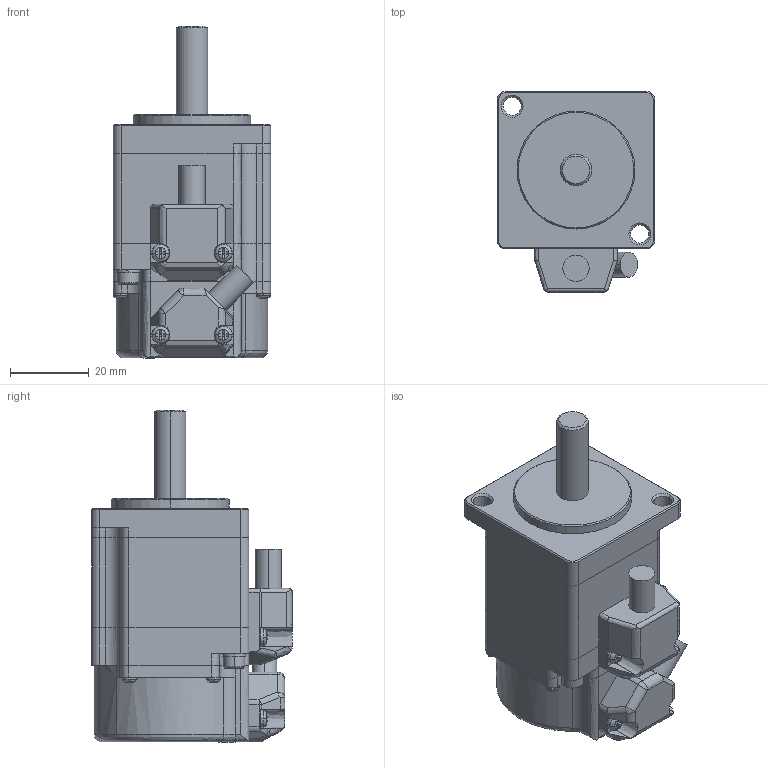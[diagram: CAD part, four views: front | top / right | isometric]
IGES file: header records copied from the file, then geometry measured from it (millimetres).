
Start section: Elysium IGES Interface
Global section: file name: 79H\\nas63\design\04MC研\saka\3DCAD\TBL-i2カタログまとめ\PKGデータ\TS4602_BK無.igs; native system: Creo Elements/Direct Modeling 17.0F  20-Aug-2012; preprocessor: Creo Element/Direct IGES_3D V2.2; author: Unknown; organization: Unknown; date: 20161221.154548; units: millimetre
Bounding box: 40 x 51.1 x 84.5 mm (x, y, z)
Volume: 93492.7 mm3; surface area: 14601.4 mm2
Topology: 1 solids, 1 shells, 562 faces, 1297 edges, 732 vertices
Faces by surface type: bspline 562
